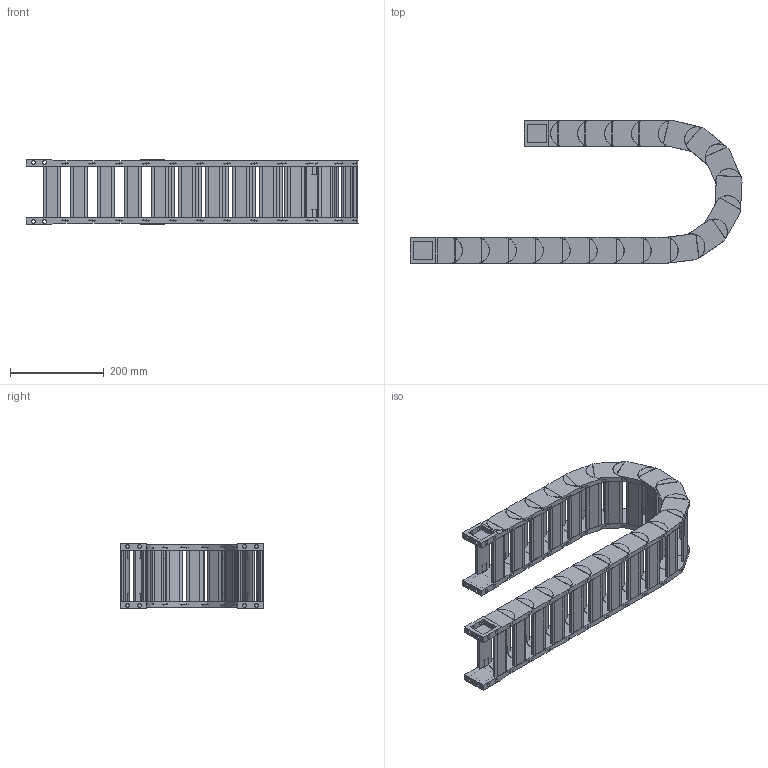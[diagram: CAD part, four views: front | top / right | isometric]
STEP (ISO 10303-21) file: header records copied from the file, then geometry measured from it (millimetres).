
FILE_DESCRIPTION((''),'2;1');
FILE_NAME('HD35-R125-ZPT_ASM','2022-07-25T16:51:42',('admin'),(''),'CREO PARAMETRIC BY PTC INC, 2021164','CREO PARAMETRIC BY PTC INC, 2021164','');
FILE_SCHEMA(('CONFIG_CONTROL_DESIGN','GEOMETRIC_VALIDATION_PROPERTIES_MIM'));
Length unit declared in the file: millimetre
Products named in the file (6): HD35; 35-600001; HD35_ASM; 35-TL_11; 35-WL; HD35-R125-ZPT_ASM
Assembly tree (25 placements, depth 3):
  HD35-R125-ZPT_ASM
    HD35_ASM  x19
      HD35
      35-600001
    35-TL_11
    35-WL
    35-600001  x2
Bounding box: 707.96 x 304.27 x 138.3 mm (x, y, z)
Volume: 3041906.7 mm3; surface area: 1081193.7 mm2
Topology: 84 solids, 84 shells, 1570 faces, 4178 edges, 2864 vertices
Faces by surface type: plane 1068, cylinder 502
Entity records: 9419 total; most frequent: DIRECTION 1424, CARTESIAN_POINT 1414, ORIENTED_EDGE 1300, EDGE_CURVE 650, AXIS2_PLACEMENT_3D 507, VERTEX_POINT 440, VECTOR 410, LINE 410
